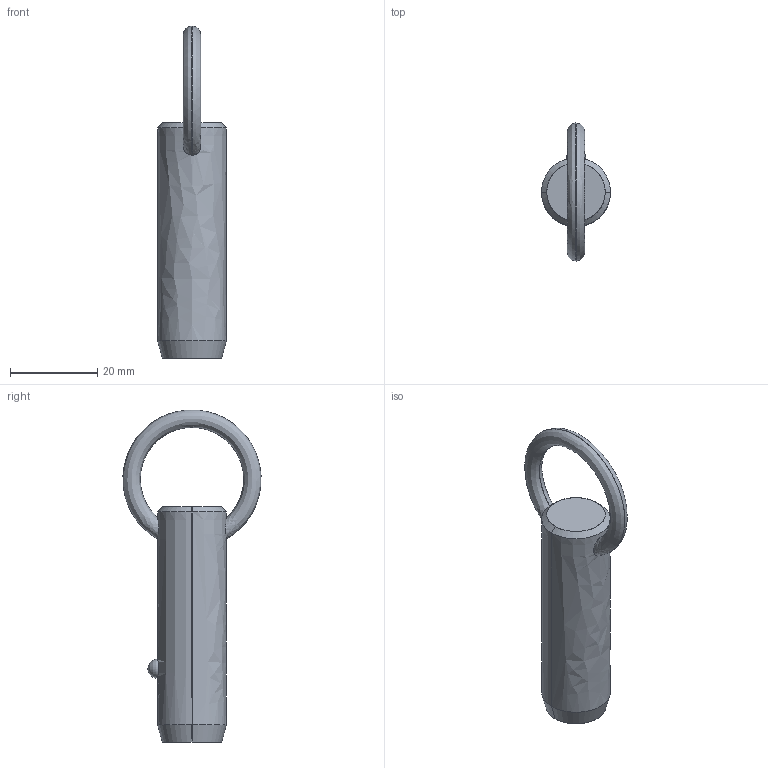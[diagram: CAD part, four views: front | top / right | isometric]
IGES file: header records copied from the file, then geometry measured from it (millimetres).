
Start section: SolidWorks IGES file using analytic representation for surfaces
Global section: file name: C:\Users\liam_\OneDrive\Documents\WORK\Work for WixRoyd\Job Files\J-00019 - Matt Davis CAD Checking\04. CAD Drawings\automotion20190605\P1250.2_v2\P1250.2_v2_20190729_IGES\P1250.062-100.igs; native system: SolidWorks 2017; preprocessor: SolidWorks 2017; author: liam_; date: 190729.232939; units: millimetre
Bounding box: 15.8 x 31.65 x 76.1 mm (x, y, z)
Surface area: 3849.3 mm2 (no closed solid volume)
Topology: 0 solids, 0 shells, 12 faces, 292 edges, 290 vertices
Faces by surface type: revolution 8, bspline 4
